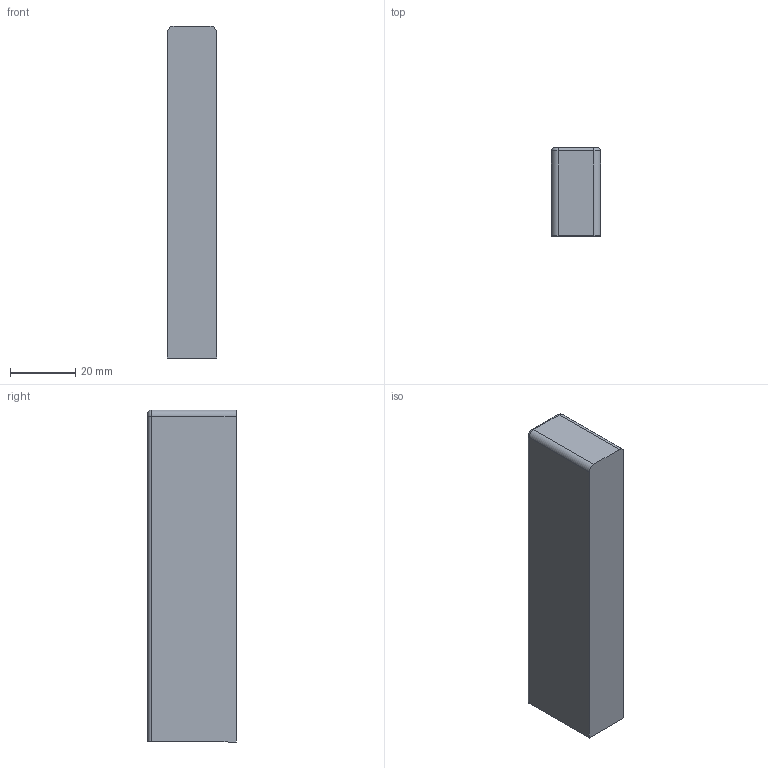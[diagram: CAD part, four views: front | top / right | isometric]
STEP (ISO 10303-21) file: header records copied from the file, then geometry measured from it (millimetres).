
FILE_DESCRIPTION (( 'STEP AP214' ), '1' );
FILE_NAME ('Abdeckkappe_Classic_vorne_rechts_Crystal .step', '2010-10-27T12:08:42', ( 'grass' ), ( '' ), 'SwSTEP 2.0', 'SolidWorks 2010', '' );
FILE_SCHEMA (( 'AUTOMOTIVE_DESIGN' ));
Length unit declared in the file: millimetre
Products named in the file (1): Abdeckkappe_Classic_vorne_rechts_Crystal 
Bounding box: 15 x 27 x 101.56 mm (x, y, z)
Volume: 35267.8 mm3; surface area: 10674.8 mm2
Topology: 1 solids, 1 shells, 18 faces, 41 edges, 26 vertices
Faces by surface type: plane 11, cylinder 5, torus 2
Entity records: 539 total; most frequent: DIRECTION 91, CARTESIAN_POINT 86, ORIENTED_EDGE 82, EDGE_CURVE 41, AXIS2_PLACEMENT_3D 31, LINE 29, VECTOR 29, VERTEX_POINT 26
